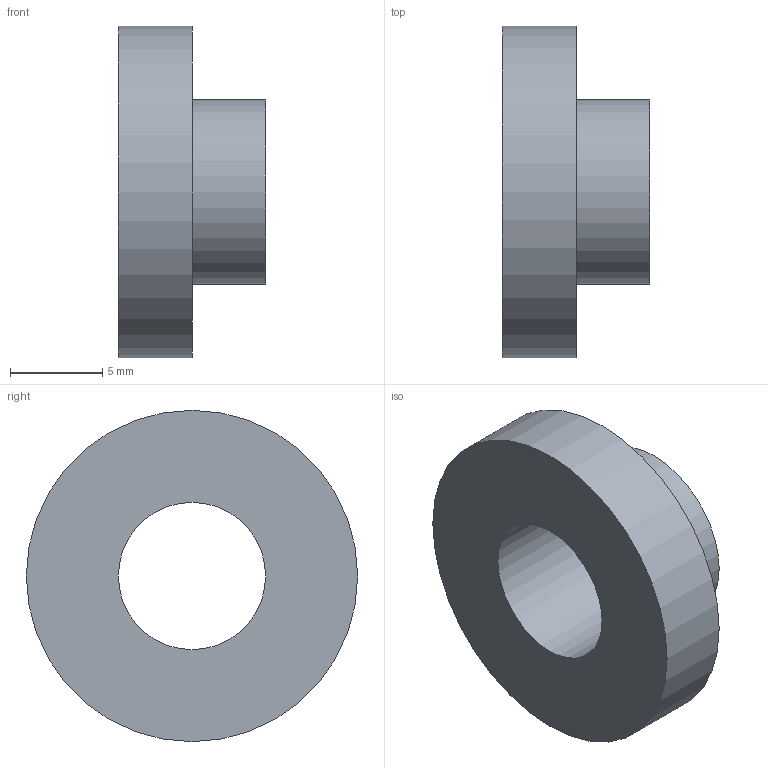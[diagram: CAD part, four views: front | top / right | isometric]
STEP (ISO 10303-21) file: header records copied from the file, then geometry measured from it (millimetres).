
FILE_DESCRIPTION(/* description */ ('STEP AP214'),/* implementation_level */ '2;1');
FILE_NAME(/* name */ 'Mounting Accessory GN 753.2-8-10-4-AE-NI',/* time_stamp */ '2024-12-09T14:01:24+01:00',/* author */ ('License CC BY-ND 4.0'),/* organization */ ('CADENAS'),/* preprocessor_version */ 'ST-DEVELOPER v19.3',/* originating_system */ 'PARTsolutions',/* authorisation */ ' ');
FILE_SCHEMA (('AUTOMOTIVE_DESIGN {1 0 10303 214 3 1 1}'));
Length unit declared in the file: millimetre
Products named in the file (1): Mounting Accessory GN 753.2-8-10-4-AE-NI
Bounding box: 8 x 18 x 18 mm (x, y, z)
Volume: 929.9 mm3; surface area: 961.3 mm2
Topology: 1 solids, 1 shells, 6 faces, 9 edges, 6 vertices
Faces by surface type: plane 3, cylinder 3
Full cylindrical faces by diameter (mm): 8 x1, 10 x1, 18 x1
Entity records: 158 total; most frequent: DIRECTION 26, CARTESIAN_POINT 19, AXIS2_PLACEMENT_3D 13, ORIENTED_EDGE 12, EDGE_LOOP 12, FACE_BOUND 12, EDGE_CURVE 6, VERTEX_POINT 6
